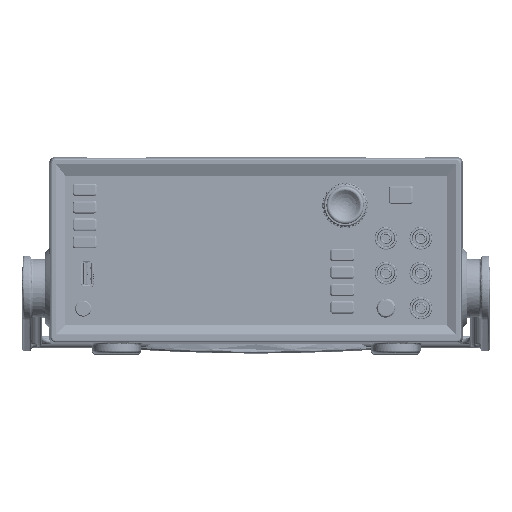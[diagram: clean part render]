
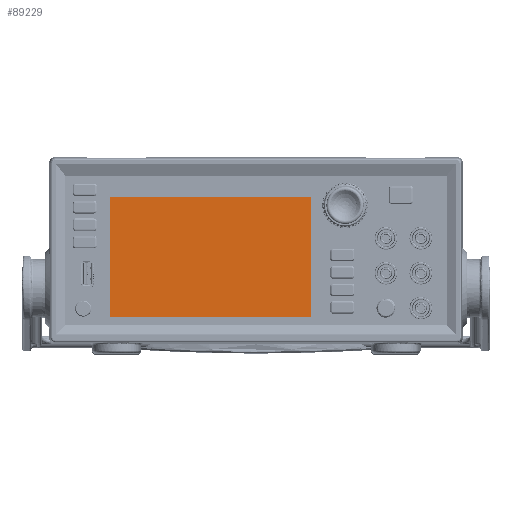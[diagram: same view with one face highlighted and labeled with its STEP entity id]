
A CAD part, top view. The second image highlights one B-rep face of the part: STEP entity #89229.
In plain terms, the highlighted planar face has unit normal (0, 0, 1).
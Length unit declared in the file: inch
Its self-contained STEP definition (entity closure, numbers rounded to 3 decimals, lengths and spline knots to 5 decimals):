
#89114=DIRECTION('',(0.,-1.,0.));
#89115=VECTOR('',#89114,2.99);
#89116=CARTESIAN_POINT('',(-2.3325,1.495,0.05));
#89117=LINE('',#89116,#89115);
#89118=DIRECTION('',(-1.,0.,0.));
#89119=VECTOR('',#89118,4.665);
#89120=CARTESIAN_POINT('',(2.3325,1.495,0.05));
#89121=LINE('',#89120,#89119);
#89122=DIRECTION('',(0.,1.,0.));
#89123=VECTOR('',#89122,2.99);
#89124=CARTESIAN_POINT('',(2.3325,-1.495,0.05));
#89125=LINE('',#89124,#89123);
#89126=DIRECTION('',(1.,0.,0.));
#89127=VECTOR('',#89126,4.665);
#89128=CARTESIAN_POINT('',(-2.3325,-1.495,0.05));
#89129=LINE('',#89128,#89127);
#89138=CARTESIAN_POINT('',(-2.3325,1.495,0.05));
#89139=CARTESIAN_POINT('',(-2.3325,-1.495,0.05));
#89140=VERTEX_POINT('',#89138);
#89141=VERTEX_POINT('',#89139);
#89142=CARTESIAN_POINT('',(2.3325,-1.495,0.05));
#89143=VERTEX_POINT('',#89142);
#89144=CARTESIAN_POINT('',(2.3325,1.495,0.05));
#89145=VERTEX_POINT('',#89144);
#89218=CARTESIAN_POINT('',(0.,0.,0.05));
#89219=DIRECTION('',(0.,0.,1.));
#89220=DIRECTION('',(1.,0.,0.));
#89221=AXIS2_PLACEMENT_3D('',#89218,#89219,#89220);
#89222=PLANE('',#89221);
#89223=ORIENTED_EDGE('',*,*,#89170,.F.);
#89224=ORIENTED_EDGE('',*,*,#89185,.F.);
#89225=ORIENTED_EDGE('',*,*,#89199,.F.);
#89226=ORIENTED_EDGE('',*,*,#89212,.F.);
#89227=EDGE_LOOP('',(#89223,#89224,#89225,#89226));
#89228=FACE_OUTER_BOUND('',#89227,.F.);
#89229=ADVANCED_FACE('',(#89228),#89222,.T.);
#89170=EDGE_CURVE('',#89140,#89141,#89117,.T.);
#89185=EDGE_CURVE('',#89145,#89140,#89121,.T.);
#89199=EDGE_CURVE('',#89143,#89145,#89125,.T.);
#89212=EDGE_CURVE('',#89141,#89143,#89129,.T.);
